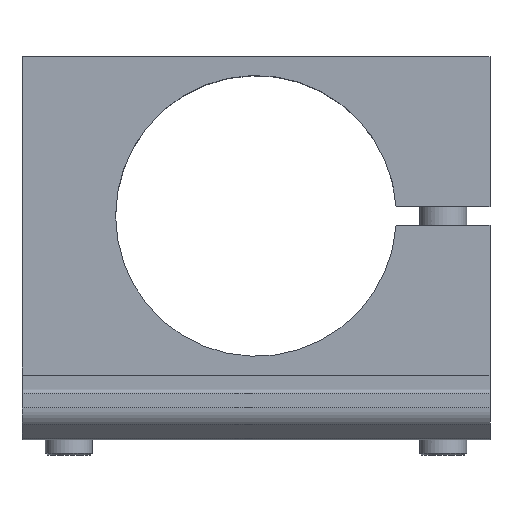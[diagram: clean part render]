
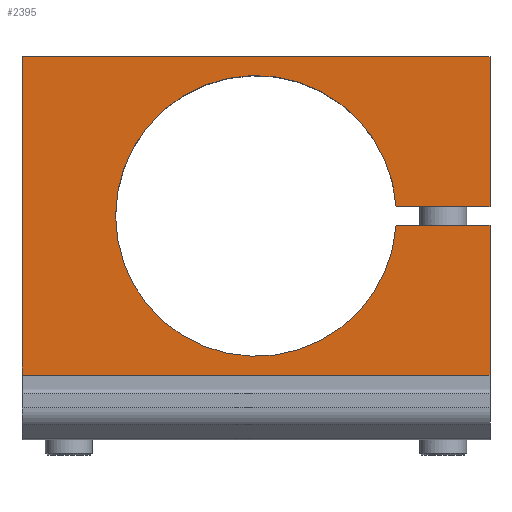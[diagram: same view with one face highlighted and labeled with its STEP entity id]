
A CAD part, top view. The second image highlights one B-rep face of the part: STEP entity #2395.
In plain terms, the highlighted planar face has unit normal (0, 0, 1).
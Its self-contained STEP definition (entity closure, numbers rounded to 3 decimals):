
#80 = LINE ( 'NONE', #3408, #7249 ) ;
#144 = CARTESIAN_POINT ( 'NONE',  ( -45.06, 15.978, 30.65 ) ) ;
#186 = FACE_OUTER_BOUND ( 'NONE', #6367, .T. ) ;
#207 = ORIENTED_EDGE ( 'NONE', *, *, #2783, .F. ) ;
#341 = LINE ( 'NONE', #6294, #5919 ) ;
#359 = EDGE_CURVE ( 'NONE', #3008, #2938, #878, .T. ) ;
#489 = VERTEX_POINT ( 'NONE', #5110 ) ;
#709 = EDGE_CURVE ( 'NONE', #1015, #2271, #1525, .T. ) ;
#878 = LINE ( 'NONE', #4157, #4517 ) ;
#920 = CARTESIAN_POINT ( 'NONE',  ( -45.06, 17.978, 30.65 ) ) ;
#1015 = VERTEX_POINT ( 'NONE', #4352 ) ;
#1090 = ORIENTED_EDGE ( 'NONE', *, *, #4276, .F. ) ;
#1106 = VERTEX_POINT ( 'NONE', #4067 ) ;
#1525 = LINE ( 'NONE', #7442, #8840 ) ;
#1637 = VERTEX_POINT ( 'NONE', #144 ) ;
#2090 = ORIENTED_EDGE ( 'NONE', *, *, #359, .F. ) ;
#2271 = VERTEX_POINT ( 'NONE', #7958 ) ;
#2395 = ADVANCED_FACE ( 'NONE', ( #186 ), #2613, .F. ) ;
#2424 = VECTOR ( 'NONE', #6998, 1000. ) ;
#2602 = VECTOR ( 'NONE', #7164, 1000. ) ;
#2613 = PLANE ( 'NONE',  #6566 ) ;
#2783 = EDGE_CURVE ( 'NONE', #2271, #1106, #7333, .T. ) ;
#2938 = VERTEX_POINT ( 'NONE', #4649 ) ;
#3008 = VERTEX_POINT ( 'NONE', #3717 ) ;
#3147 = ORIENTED_EDGE ( 'NONE', *, *, #6706, .F. ) ;
#3279 = ORIENTED_EDGE ( 'NONE', *, *, #4994, .F. ) ;
#3408 = CARTESIAN_POINT ( 'NONE',  ( -35.026, 17.978, 30.65 ) ) ;
#3451 = DIRECTION ( 'NONE',  ( -1., 0., 0. ) ) ;
#3704 = AXIS2_PLACEMENT_3D ( 'NONE', #7471, #6895, #6837 ) ;
#3717 = CARTESIAN_POINT ( 'NONE',  ( -85.026, 33.978, 30.65 ) ) ;
#4067 = CARTESIAN_POINT ( 'NONE',  ( -85.026, -0.022, 30.65 ) ) ;
#4157 = CARTESIAN_POINT ( 'NONE',  ( -85.026, 33.978, 30.65 ) ) ;
#4177 = CIRCLE ( 'NONE', #3704, 15. ) ;
#4276 = EDGE_CURVE ( 'NONE', #489, #7005, #80, .T. ) ;
#4333 = DIRECTION ( 'NONE',  ( 1., 0., 0. ) ) ;
#4352 = CARTESIAN_POINT ( 'NONE',  ( -35.026, 15.978, 30.65 ) ) ;
#4517 = VECTOR ( 'NONE', #4333, 1000. ) ;
#4649 = CARTESIAN_POINT ( 'NONE',  ( -35.026, 33.978, 30.65 ) ) ;
#4994 = EDGE_CURVE ( 'NONE', #1106, #3008, #8259, .T. ) ;
#5110 = CARTESIAN_POINT ( 'NONE',  ( -35.026, 17.978, 30.65 ) ) ;
#5919 = VECTOR ( 'NONE', #6242, 1000. ) ;
#6126 = ORIENTED_EDGE ( 'NONE', *, *, #7362, .F. ) ;
#6175 = CARTESIAN_POINT ( 'NONE',  ( 0., 0., 30.65 ) ) ;
#6242 = DIRECTION ( 'NONE',  ( 0., -1., 0. ) ) ;
#6277 = DIRECTION ( 'NONE',  ( -1., 0., 0. ) ) ;
#6294 = CARTESIAN_POINT ( 'NONE',  ( -35.026, 33.978, 30.65 ) ) ;
#6367 = EDGE_LOOP ( 'NONE', ( #8874, #3147, #1090, #6126, #2090, #3279, #207, #7250 ) ) ;
#6566 = AXIS2_PLACEMENT_3D ( 'NONE', #6175, #8116, #6277 ) ;
#6706 = EDGE_CURVE ( 'NONE', #7005, #1637, #4177, .T. ) ;
#6837 = DIRECTION ( 'NONE',  ( 1., 0., 0. ) ) ;
#6895 = DIRECTION ( 'NONE',  ( 0., 0., 1. ) ) ;
#6998 = DIRECTION ( 'NONE',  ( 1., 0., 0. ) ) ;
#7005 = VERTEX_POINT ( 'NONE', #920 ) ;
#7164 = DIRECTION ( 'NONE',  ( 0., 1., 0. ) ) ;
#7218 = CARTESIAN_POINT ( 'NONE',  ( -85.026, -1.522, 30.65 ) ) ;
#7249 = VECTOR ( 'NONE', #3451, 1000. ) ;
#7250 = ORIENTED_EDGE ( 'NONE', *, *, #709, .F. ) ;
#7333 = LINE ( 'NONE', #7513, #9127 ) ;
#7362 = EDGE_CURVE ( 'NONE', #2938, #489, #341, .T. ) ;
#7442 = CARTESIAN_POINT ( 'NONE',  ( -35.026, 33.978, 30.65 ) ) ;
#7471 = CARTESIAN_POINT ( 'NONE',  ( -60.026, 16.978, 30.65 ) ) ;
#7513 = CARTESIAN_POINT ( 'NONE',  ( -35.026, -0.022, 30.65 ) ) ;
#7536 = DIRECTION ( 'NONE',  ( -1., 0., 0. ) ) ;
#7887 = DIRECTION ( 'NONE',  ( 0., -1., 0. ) ) ;
#7958 = CARTESIAN_POINT ( 'NONE',  ( -35.026, -0.022, 30.65 ) ) ;
#8097 = LINE ( 'NONE', #8577, #2424 ) ;
#8116 = DIRECTION ( 'NONE',  ( 0., 0., -1. ) ) ;
#8259 = LINE ( 'NONE', #7218, #2602 ) ;
#8577 = CARTESIAN_POINT ( 'NONE',  ( -45.06, 15.978, 30.65 ) ) ;
#8840 = VECTOR ( 'NONE', #7887, 1000. ) ;
#8874 = ORIENTED_EDGE ( 'NONE', *, *, #8927, .F. ) ;
#8927 = EDGE_CURVE ( 'NONE', #1637, #1015, #8097, .T. ) ;
#9127 = VECTOR ( 'NONE', #7536, 1000. ) ;
